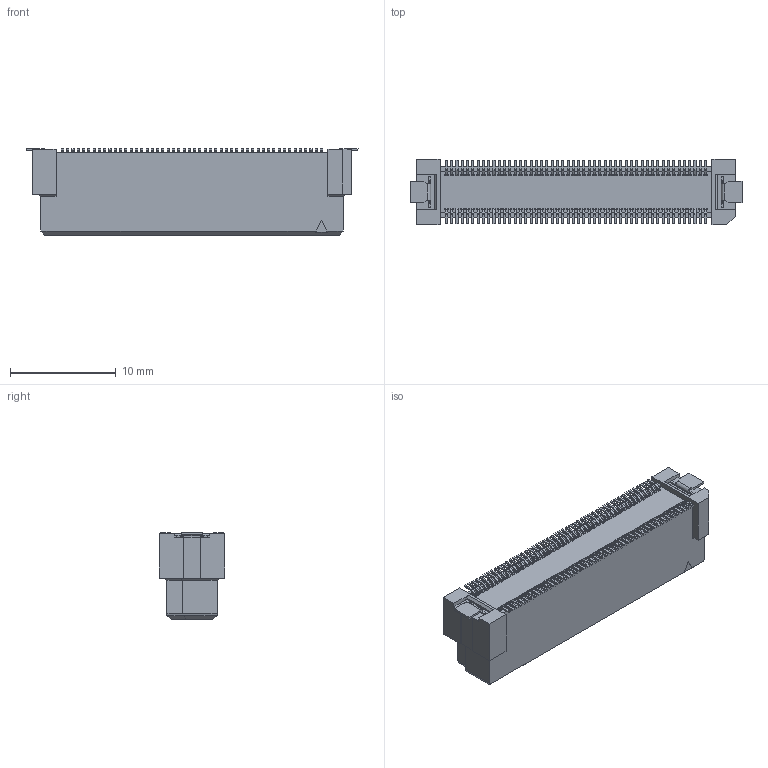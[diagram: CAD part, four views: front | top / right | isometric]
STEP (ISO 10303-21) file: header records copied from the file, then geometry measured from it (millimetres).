
FILE_DESCRIPTION(('Creo Elements/Direct Modeling STEP Export'),'2;1');
FILE_NAME('DT10-100S-10-T.stp','2017-08-11T10:11:16',(''),(''),'Creo Elements/Direct Modeling STEP processor for AP214 (Solid Model)','Creo Elements/Direct Modeling 19.0F 14-Feb-2017 (C) Parametric Technology GmbH','');
FILE_SCHEMA(('AUTOMOTIVE_DESIGN { 1 0 10303 214 1 1 1 1 }'));
Products named in the file (2): DT10-100S-10-T
Assembly tree (1 placements, depth 2):
  DT10-100S-10-T
    DT10-100S-10-T
Bounding box: 31.4 x 6.2 x 8.18 mm (x, y, z)
Volume: 964.9 mm3; surface area: 1673.5 mm2
Topology: 1 solids, 1 shells, 3531 faces, 9998 edges, 6672 vertices
Faces by surface type: plane 3019, cylinder 512
Entity records: 112017 total; most frequent: ORIENTED_EDGE 19996, CARTESIAN_POINT 19916, DIRECTION 17905, EDGE_CURVE 9998, VECTOR 8583, LINE 8583, VERTEX_POINT 6672, AXIS2_PLACEMENT_3D 4661
